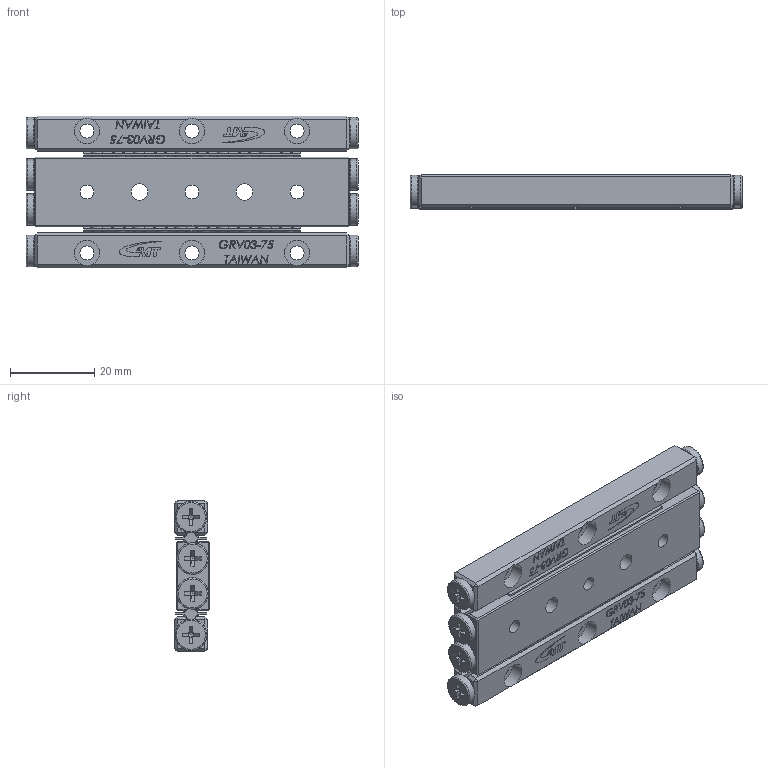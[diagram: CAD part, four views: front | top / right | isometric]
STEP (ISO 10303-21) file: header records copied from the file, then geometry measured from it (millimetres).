
FILE_DESCRIPTION (( 'STEP AP203' ), '1' );
FILE_NAME ('GRD03-75.STEP', '2023-10-24T06:05:37', ( '' ), ( '' ), 'SwSTEP 2.0', 'SolidWorks 2019', '' );
FILE_SCHEMA (( 'CONFIG_CONTROL_DESIGN' ));
Length unit declared in the file: millimetre
Products named in the file (4): GRVP03-75-模糊化保持器組; GRD03-75-模糊化中軌; GRV03-75-模糊化軌道; GRD03-75
Assembly tree (5 placements, depth 2):
  GRD03-75
    GRD03-75-模糊化中軌
    GRV03-75-模糊化軌道  x2
    GRVP03-75-模糊化保持器組  x2
Bounding box: 79 x 8.5 x 36 mm (x, y, z)
Volume: 19072.7 mm3; surface area: 13421.4 mm2
Topology: 5 solids, 5 shells, 1444 faces, 3591 edges, 2306 vertices
Faces by surface type: plane 995, bspline 171, cylinder 150, cone 72, torus 56
Full cylindrical faces by diameter (mm): 3.3 x3, 3.35 x6, 4 x2, 6 x9, 7.5 x8
Entity records: 33289 total; most frequent: CARTESIAN_POINT 12095, ORIENTED_EDGE 4498, DIRECTION 3740, EDGE_CURVE 2249, LINE 1540, VECTOR 1540, VERTEX_POINT 1455, AXIS2_PLACEMENT_3D 1100
